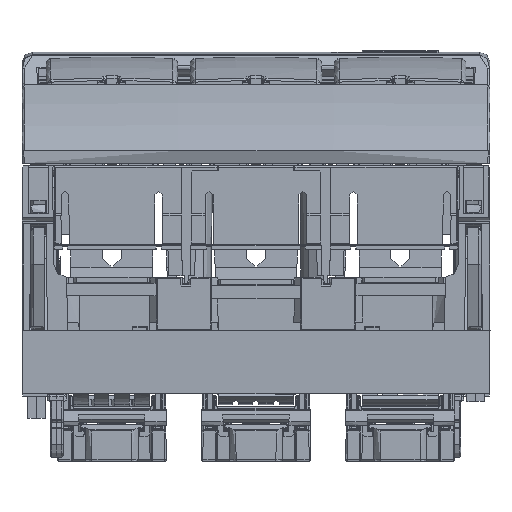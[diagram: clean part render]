
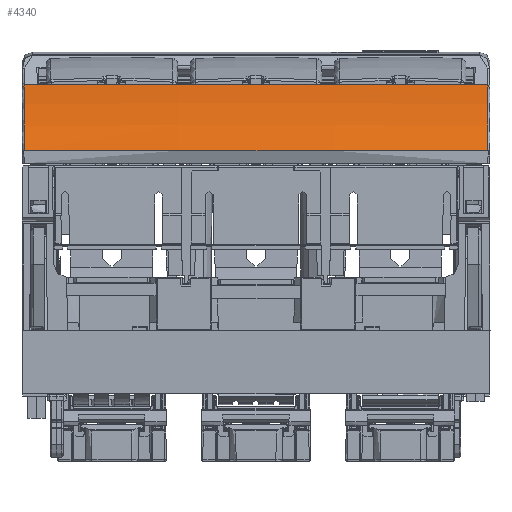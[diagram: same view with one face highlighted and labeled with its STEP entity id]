
A CAD part, front view. The second image highlights one B-rep face of the part: STEP entity #4340.
In plain terms, the highlighted free-form (B-spline) face has degree [3, 3] with [4, 4] control points.
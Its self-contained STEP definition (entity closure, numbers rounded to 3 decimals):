
#4302 = EDGE_CURVE ( 'NONE', #338748, #4312, #369994, .T. ) ;
#4312 = VERTEX_POINT ( 'NONE', #369984 ) ;
#4340 = ADVANCED_FACE ( 'NONE', ( #370126 ), #370110, .T. ) ;
#4347 = EDGE_LOOP ( 'NONE', ( #4359, #4374, #4378, #4559, #4577, #4591 ) ) ;
#4359 = ORIENTED_EDGE ( 'NONE', *, *, #338740, .T. ) ;
#4374 = ORIENTED_EDGE ( 'NONE', *, *, #4302, .T. ) ;
#4378 = ORIENTED_EDGE ( 'NONE', *, *, #4381, .T. ) ;
#4381 = EDGE_CURVE ( 'NONE', #4312, #4388, #370381, .T. ) ;
#4388 = VERTEX_POINT ( 'NONE', #370358 ) ;
#4559 = ORIENTED_EDGE ( 'NONE', *, *, #4567, .F. ) ;
#4567 = EDGE_CURVE ( 'NONE', #338546, #4388, #370900, .T. ) ;
#4577 = ORIENTED_EDGE ( 'NONE', *, *, #338541, .T. ) ;
#4591 = ORIENTED_EDGE ( 'NONE', *, *, #338667, .T. ) ;
#338529 = VERTEX_POINT ( 'NONE', #385804 ) ;
#338541 = EDGE_CURVE ( 'NONE', #338546, #338529, #385884, .T. ) ;
#338546 = VERTEX_POINT ( 'NONE', #385890 ) ;
#338642 = VERTEX_POINT ( 'NONE', #386110 ) ;
#338667 = EDGE_CURVE ( 'NONE', #338529, #338642, #386098, .T. ) ;
#338740 = EDGE_CURVE ( 'NONE', #338642, #338748, #386361, .T. ) ;
#338748 = VERTEX_POINT ( 'NONE', #386459 ) ;
#369965 = CARTESIAN_POINT ( 'NONE',  ( 95., -48.276, 78. ) ) ;
#369968 = CARTESIAN_POINT ( 'NONE',  ( 95.006, -48.275, 78. ) ) ;
#369970 = CARTESIAN_POINT ( 'NONE',  ( 95.013, -48.275, 78. ) ) ;
#369972 = CARTESIAN_POINT ( 'NONE',  ( 95.019, -48.275, 78. ) ) ;
#369984 = CARTESIAN_POINT ( 'NONE',  ( 95., -48.276, 78. ) ) ;
#369994 = B_SPLINE_CURVE_WITH_KNOTS ( 'NONE', 3,
 ( #369972, #369970, #369968, #369965 ),
 .UNSPECIFIED., .F., .F.,
 ( 4, 4 ),
 ( 0., 1. ),
 .UNSPECIFIED. ) ;
#370030 = CARTESIAN_POINT ( 'NONE',  ( -90.43, -75.986, 62.753 ) ) ;
#370031 = CARTESIAN_POINT ( 'NONE',  ( -27.833, -78.947, 62.753 ) ) ;
#370036 = CARTESIAN_POINT ( 'NONE',  ( 34.833, -78.947, 62.753 ) ) ;
#370039 = CARTESIAN_POINT ( 'NONE',  ( 97.43, -75.986, 62.753 ) ) ;
#370042 = CARTESIAN_POINT ( 'NONE',  ( -90.985, -87.723, 52.04 ) ) ;
#370043 = CARTESIAN_POINT ( 'NONE',  ( -28.018, -90.701, 52.04 ) ) ;
#370046 = CARTESIAN_POINT ( 'NONE',  ( 35.018, -90.701, 52.04 ) ) ;
#370049 = CARTESIAN_POINT ( 'NONE',  ( 97.985, -87.723, 52.04 ) ) ;
#370110 =( BOUNDED_SURFACE ( )  B_SPLINE_SURFACE ( 3, 3, ( 
 ( #370049, #370046, #370043, #370042 ),
 ( #370039, #370036, #370031, #370030 ),
 ( #370285, #370281, #370279, #370274 ),
 ( #370270, #370268, #370263, #370259 ) ),
 .UNSPECIFIED., .F., .F., .T. ) 
 B_SPLINE_SURFACE_WITH_KNOTS ( ( 4, 4 ),
 ( 4, 4 ),
 ( 0., 1. ),
 ( 0., 1. ),
 .UNSPECIFIED. ) 
 GEOMETRIC_REPRESENTATION_ITEM ( )  RATIONAL_B_SPLINE_SURFACE ( (
 ( 1., 0.999, 0.999, 1.),
 ( 0.992, 0.991, 0.991, 0.992),
 ( 0.992, 0.991, 0.991, 0.992),
 ( 1., 0.999, 0.999, 1.) ) ) 
 REPRESENTATION_ITEM ( '' )  SURFACE ( )  );
#370126 = FACE_OUTER_BOUND ( 'NONE', #4347, .T. ) ;
#370259 = CARTESIAN_POINT ( 'NONE',  ( -89.117, -48.223, 78. ) ) ;
#370263 = CARTESIAN_POINT ( 'NONE',  ( -27.395, -51.142, 78. ) ) ;
#370268 = CARTESIAN_POINT ( 'NONE',  ( 34.395, -51.142, 78. ) ) ;
#370270 = CARTESIAN_POINT ( 'NONE',  ( 96.117, -48.223, 78. ) ) ;
#370274 = CARTESIAN_POINT ( 'NONE',  ( -89.802, -62.709, 71.479 ) ) ;
#370279 = CARTESIAN_POINT ( 'NONE',  ( -27.624, -65.649, 71.479 ) ) ;
#370281 = CARTESIAN_POINT ( 'NONE',  ( 34.624, -65.649, 71.479 ) ) ;
#370285 = CARTESIAN_POINT ( 'NONE',  ( 96.802, -62.709, 71.479 ) ) ;
#370358 = CARTESIAN_POINT ( 'NONE',  ( -88., -48.276, 78. ) ) ;
#370361 = DIRECTION ( 'NONE',  ( -1., 0., 0. ) ) ;
#370364 = DIRECTION ( 'NONE',  ( 0., 0., -1. ) ) ;
#370369 = CARTESIAN_POINT ( 'NONE',  ( 3.5, 1910., 78. ) ) ;
#370371 = AXIS2_PLACEMENT_3D ( 'NONE', #370369, #370364, #370361 ) ;
#370381 = CIRCLE ( 'NONE', #370371, 1960.412 ) ;
#370875 = CARTESIAN_POINT ( 'NONE',  ( -88., -48.276, 78. ) ) ;
#370879 = CARTESIAN_POINT ( 'NONE',  ( -88.006, -48.275, 78. ) ) ;
#370883 = CARTESIAN_POINT ( 'NONE',  ( -88.013, -48.275, 78. ) ) ;
#370889 = CARTESIAN_POINT ( 'NONE',  ( -88.019, -48.275, 78. ) ) ;
#370900 = B_SPLINE_CURVE_WITH_KNOTS ( 'NONE', 3,
 ( #370889, #370883, #370879, #370875 ),
 .UNSPECIFIED., .F., .F.,
 ( 4, 4 ),
 ( 0., 1. ),
 .UNSPECIFIED. ) ;
#385804 = CARTESIAN_POINT ( 'NONE',  ( -88.031, -87.86, 52.04 ) ) ;
#385884 = B_SPLINE_CURVE_WITH_KNOTS ( 'NONE', 3,
 ( #386006, #386003, #386001, #385999, #385996, #385994 ),
 .UNSPECIFIED., .F., .F.,
 ( 4, 2, 4 ),
 ( 0., 0.5, 1. ),
 .UNSPECIFIED. ) ;
#385890 = CARTESIAN_POINT ( 'NONE',  ( -88.019, -48.275, 78. ) ) ;
#385994 = CARTESIAN_POINT ( 'NONE',  ( -88.031, -87.86, 52.04 ) ) ;
#385996 = CARTESIAN_POINT ( 'NONE',  ( -88.029, -82.293, 57.111 ) ) ;
#385999 = CARTESIAN_POINT ( 'NONE',  ( -88.028, -76.197, 61.895 ) ) ;
#386001 = CARTESIAN_POINT ( 'NONE',  ( -88.024, -62.981, 70.636 ) ) ;
#386003 = CARTESIAN_POINT ( 'NONE',  ( -88.021, -55.861, 74.593 ) ) ;
#386006 = CARTESIAN_POINT ( 'NONE',  ( -88.019, -48.275, 78. ) ) ;
#386093 = DIRECTION ( 'NONE',  ( 1., 0., 0. ) ) ;
#386095 = DIRECTION ( 'NONE',  ( 0., 0., 1. ) ) ;
#386096 = CARTESIAN_POINT ( 'NONE',  ( 3.5, 1910., 52.04 ) ) ;
#386097 = AXIS2_PLACEMENT_3D ( 'NONE', #386096, #386095, #386093 ) ;
#386098 = CIRCLE ( 'NONE', #386097, 1999.956 ) ;
#386110 = CARTESIAN_POINT ( 'NONE',  ( 95.031, -87.86, 52.04 ) ) ;
#386317 = CARTESIAN_POINT ( 'NONE',  ( 95.024, -62.981, 70.636 ) ) ;
#386318 = CARTESIAN_POINT ( 'NONE',  ( 95.028, -76.197, 61.895 ) ) ;
#386321 = CARTESIAN_POINT ( 'NONE',  ( 95.029, -82.293, 57.111 ) ) ;
#386323 = CARTESIAN_POINT ( 'NONE',  ( 95.031, -87.86, 52.04 ) ) ;
#386361 = B_SPLINE_CURVE_WITH_KNOTS ( 'NONE', 3,
 ( #386323, #386321, #386318, #386317, #386469, #386468 ),
 .UNSPECIFIED., .F., .F.,
 ( 4, 2, 4 ),
 ( 0., 0.5, 1. ),
 .UNSPECIFIED. ) ;
#386459 = CARTESIAN_POINT ( 'NONE',  ( 95.019, -48.275, 78. ) ) ;
#386468 = CARTESIAN_POINT ( 'NONE',  ( 95.019, -48.275, 78. ) ) ;
#386469 = CARTESIAN_POINT ( 'NONE',  ( 95.021, -55.861, 74.593 ) ) ;
